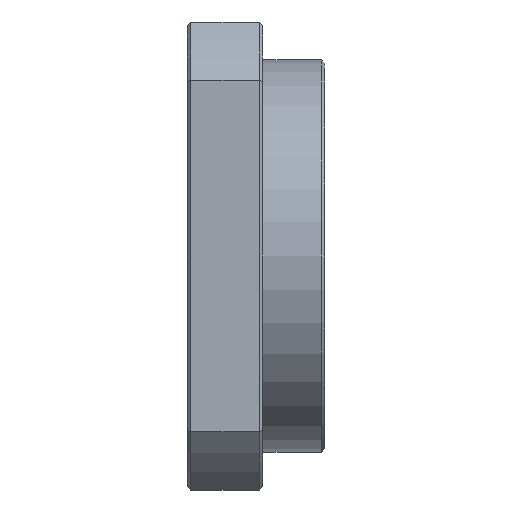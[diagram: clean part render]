
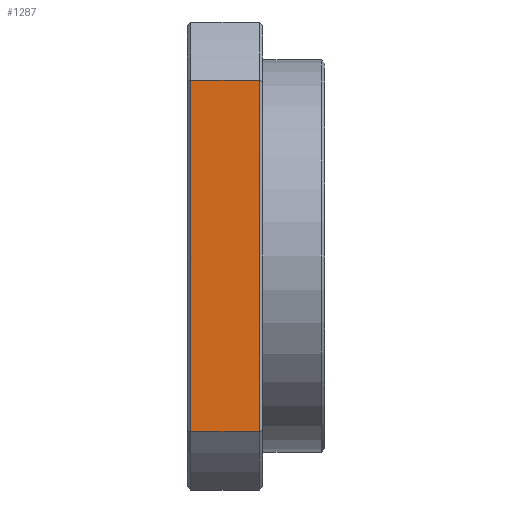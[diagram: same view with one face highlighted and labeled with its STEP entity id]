
A CAD part, front view. The second image highlights one B-rep face of the part: STEP entity #1287.
In plain terms, the highlighted planar face has unit normal (0, -1, 0).
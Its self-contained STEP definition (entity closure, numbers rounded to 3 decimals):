
#70 = DIRECTION ( 'NONE',  ( 0., 0., -1. ) ) ;
#163 = FACE_OUTER_BOUND ( 'NONE', #1083, .T. ) ;
#231 = LINE ( 'NONE', #1401, #2338 ) ;
#341 = VECTOR ( 'NONE', #541, 1000. ) ;
#395 = LINE ( 'NONE', #1305, #341 ) ;
#541 = DIRECTION ( 'NONE',  ( 0., 0., 1. ) ) ;
#673 = CARTESIAN_POINT ( 'NONE',  ( 10.5, -34., -25.5 ) ) ;
#942 = VECTOR ( 'NONE', #1520, 1000. ) ;
#1027 = EDGE_CURVE ( 'NONE', #1369, #3721, #395, .T. ) ;
#1083 = EDGE_LOOP ( 'NONE', ( #3060, #3071, #3078, #3095 ) ) ;
#1217 = VERTEX_POINT ( 'NONE', #2107 ) ;
#1287 = ADVANCED_FACE ( 'NONE', ( #163 ), #2390, .T. ) ;
#1305 = CARTESIAN_POINT ( 'NONE',  ( 10.5, -34., 25.5 ) ) ;
#1317 = DIRECTION ( 'NONE',  ( 0., 0., -1. ) ) ;
#1369 = VERTEX_POINT ( 'NONE', #673 ) ;
#1401 = CARTESIAN_POINT ( 'NONE',  ( 0.5, -34., -25.5 ) ) ;
#1520 = DIRECTION ( 'NONE',  ( -1., 0., 0. ) ) ;
#1821 = CARTESIAN_POINT ( 'NONE',  ( -81.647, -34., 25.5 ) ) ;
#1837 = LINE ( 'NONE', #1821, #942 ) ;
#2107 = CARTESIAN_POINT ( 'NONE',  ( 0.5, -34., -25.5 ) ) ;
#2328 = EDGE_CURVE ( 'NONE', #1217, #1369, #3005, .T. ) ;
#2337 = VERTEX_POINT ( 'NONE', #2620 ) ;
#2338 = VECTOR ( 'NONE', #70, 1000. ) ;
#2359 = DIRECTION ( 'NONE',  ( 1., 0., 0. ) ) ;
#2390 = PLANE ( 'NONE',  #3774 ) ;
#2620 = CARTESIAN_POINT ( 'NONE',  ( 0.5, -34., 25.5 ) ) ;
#2990 = CARTESIAN_POINT ( 'NONE',  ( 10.5, -34., 25.5 ) ) ;
#3005 = LINE ( 'NONE', #3832, #3441 ) ;
#3060 = ORIENTED_EDGE ( 'NONE', *, *, #3168, .T. ) ;
#3071 = ORIENTED_EDGE ( 'NONE', *, *, #3476, .T. ) ;
#3078 = ORIENTED_EDGE ( 'NONE', *, *, #2328, .T. ) ;
#3095 = ORIENTED_EDGE ( 'NONE', *, *, #1027, .T. ) ;
#3168 = EDGE_CURVE ( 'NONE', #3721, #2337, #1837, .T. ) ;
#3184 = CARTESIAN_POINT ( 'NONE',  ( 50., -34., -34. ) ) ;
#3441 = VECTOR ( 'NONE', #2359, 1000. ) ;
#3476 = EDGE_CURVE ( 'NONE', #2337, #1217, #231, .T. ) ;
#3509 = DIRECTION ( 'NONE',  ( 0., -1., 0. ) ) ;
#3721 = VERTEX_POINT ( 'NONE', #2990 ) ;
#3774 = AXIS2_PLACEMENT_3D ( 'NONE', #3184, #3509, #1317 ) ;
#3832 = CARTESIAN_POINT ( 'NONE',  ( -81.647, -34., -25.5 ) ) ;
